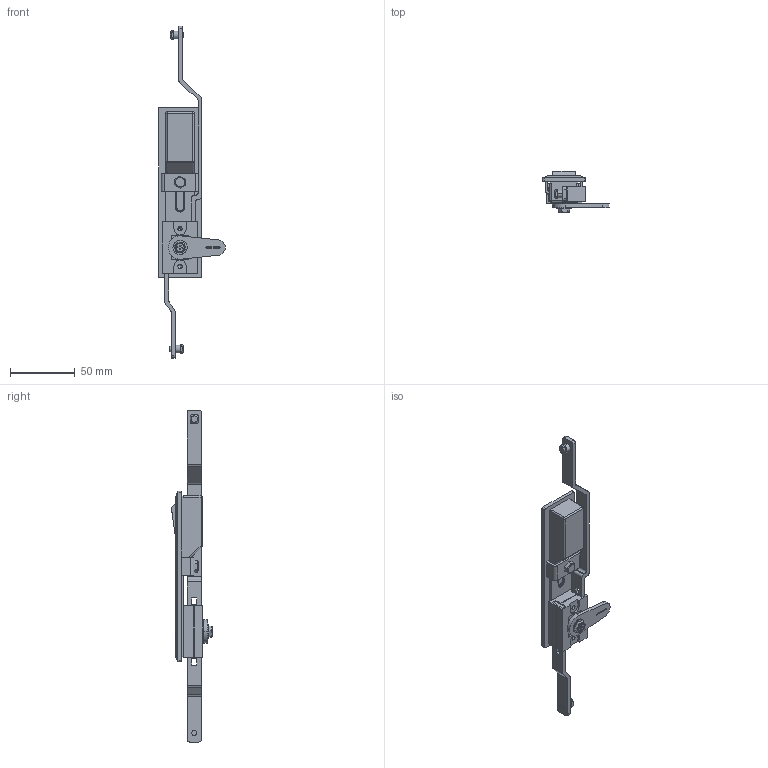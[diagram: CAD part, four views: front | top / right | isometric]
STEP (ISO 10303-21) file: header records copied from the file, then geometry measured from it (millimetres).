
FILE_DESCRIPTION (( 'STEP AP203' ), '1' );
FILE_NAME ('SK1-090.2017.6.10.STEP', '2017-12-25T02:46:42', ( 'admin' ), ( 'Microsoft' ), 'SwSTEP 2.0', 'SolidWorks 2015', '' );
FILE_SCHEMA (( 'CONFIG_CONTROL_DESIGN' ));
Length unit declared in the file: millimetre
Products named in the file (6): SK1-090.2017.6.10.蜇璃1; SK1-090.2017.6.10.坶え; 带垫片十字M5公称长度10; 俋鞠褒M5鼠備酗僅10; SK1-090.2017.6.10
Assembly tree (5 placements, depth 2):
  SK1-090.2017.6.10
    SK1-090.2017.6.10
    SK1-090.2017.6.10.蜇璃1
    SK1-090.2017.6.10.坶え
    带垫片十字M5公称长度10
    俋鞠褒M5鼠備酗僅10
Bounding box: 51.48 x 32 x 257 mm (x, y, z)
Volume: 65588.6 mm3; surface area: 32351.1 mm2
Topology: 5 solids, 5 shells, 463 faces, 1255 edges, 808 vertices
Faces by surface type: plane 242, cylinder 152, bspline 34, cone 19, torus 9, sphere 7
Entity records: 19563 total; most frequent: CARTESIAN_POINT 7790, ORIENTED_EDGE 2478, DIRECTION 2121, EDGE_CURVE 1239, VERTEX_POINT 808, LINE 793, VECTOR 793, AXIS2_PLACEMENT_3D 664
